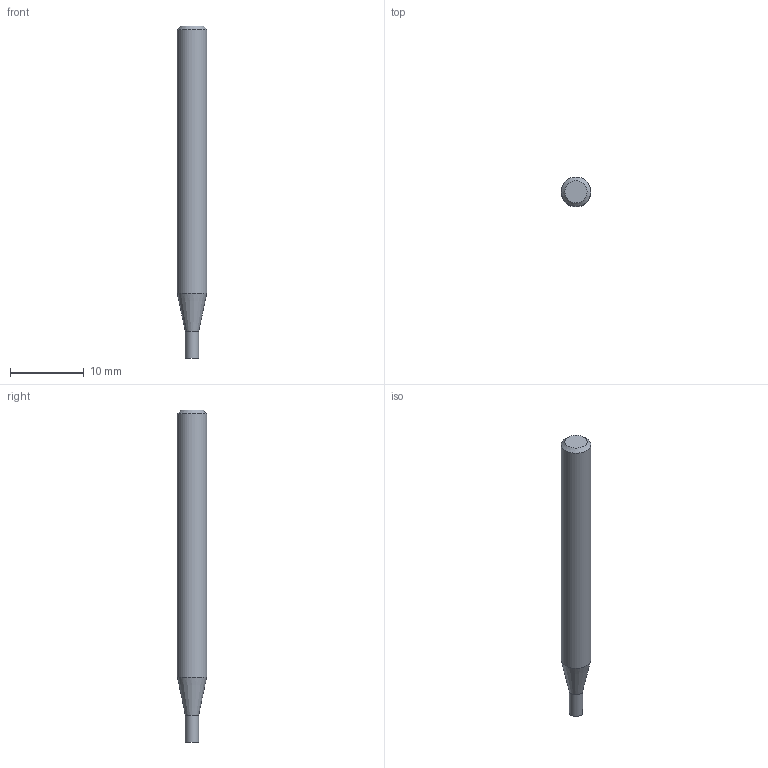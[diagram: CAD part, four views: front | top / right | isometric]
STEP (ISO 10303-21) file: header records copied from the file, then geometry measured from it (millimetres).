
FILE_DESCRIPTION((''),'2;1');
FILE_NAME('C:\Users\nsx150\AppData\Local\Temp\Mastercam 2021\E36A1X9CCL\TEMP.step','2023-04-21T15:12:23',(''),(''),'STEP Write','Mastercam 2021 ... CNC Software, Inc.','');
FILE_SCHEMA(('AUTOMOTIVE_DESIGN'));
Length unit declared in the file: millimetre
Products named in the file (1): None
Bounding box: 4 x 4 x 45 mm (x, y, z)
Volume: 498.8 mm3; surface area: 540 mm2
Topology: 2 solids, 2 shells, 8 faces, 10 edges, 6 vertices
Faces by surface type: plane 4, cylinder 2, cone 2
Full cylindrical faces by diameter (mm): 1.8 x1, 4 x1
Entity records: 190 total; most frequent: DIRECTION 32, CARTESIAN_POINT 22, AXIS2_PLACEMENT_3D 16, ORIENTED_EDGE 12, EDGE_LOOP 12, STYLED_ITEM 11, ADVANCED_FACE 8, VERTEX_POINT 6
